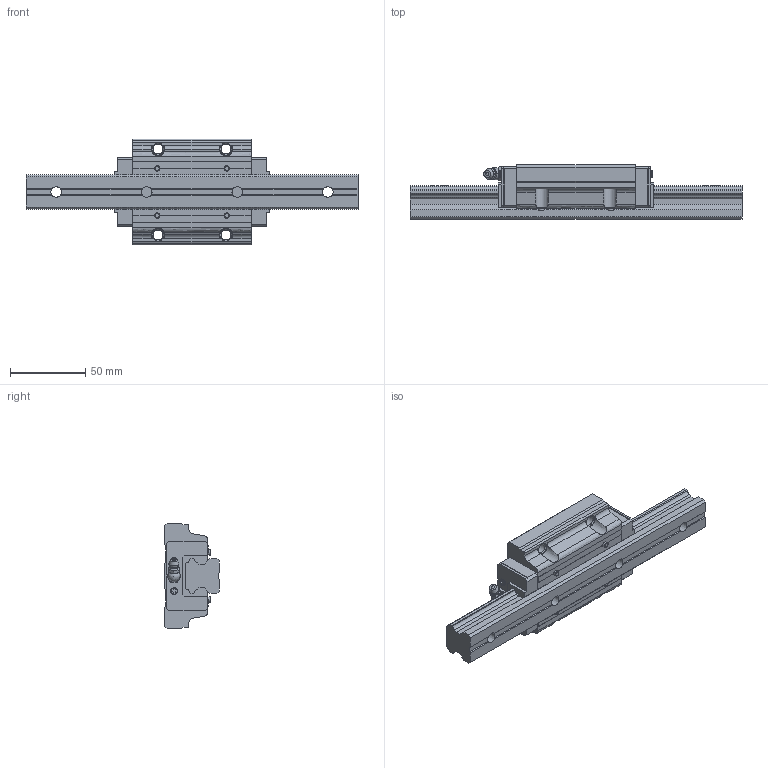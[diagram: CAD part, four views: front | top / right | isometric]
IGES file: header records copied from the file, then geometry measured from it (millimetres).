
Start section: Data from Parasolid IGES Translator 26.0.171, Copyright(c) 2006 Siemens PLM Software. All Rights Reserved.
Global section: file name: HSR25M1LA1SS-220L_G20_0_B-M6F_58-5_0_0_0_1.igs; native system: By Siemens PLM Incorporated; preprocessor: XPlus GENERIC/IGES 26.0.171; author: Noname; organization: Noname; date: 20240523.061208; units: millimetre
Bounding box: 220 x 36 x 70 mm (x, y, z)
Surface area: 49978.5 mm2 (no closed solid volume)
Topology: 0 solids, 0 shells, 297 faces, 1706 edges, 1636 vertices
Faces by surface type: extrusion 208, revolution 89
